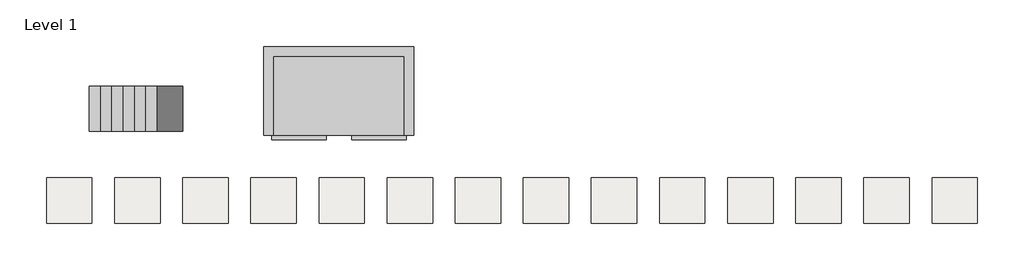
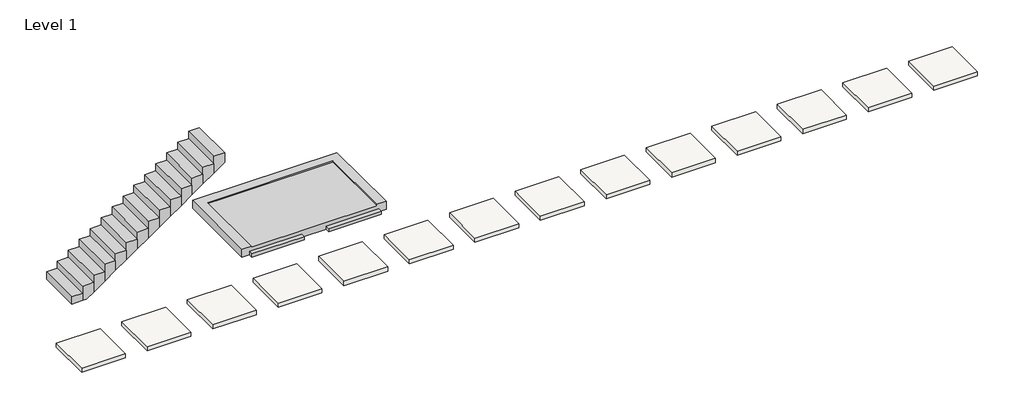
# One storey: 14 slabs, 1 proxy, 1 stair flight.
"""IFC4 building model written with IfcOpenShell, lengths in millimetres."""

from ifc_helpers import new_model, si_unit, frame, origin, place, context, project, spatial, polyline, outline, extrude, faceted_brep, transform, mapped, element, save
from components import proxy_300_24_isr_concrete_platform_double_platform_9cdc8692

model = new_model("IFC4")

# Units and contexts
model_context = context("Model", 3, world=origin())
ifc_project = project(units=[si_unit("LENGTHUNIT", "METRE", prefix="MILLI")], contexts=[model_context])

# Site, building, storey
site = spatial("IfcSite", under=ifc_project)
building = spatial("IfcBuilding", under=site)
storey = spatial("IfcBuildingStorey", under=building, Name="Level 1", Elevation=0.0)

# Proxy
placement = place(None, origin())
proxy_300_24_isr_concrete_platform_double_platform_shape = proxy_300_24_isr_concrete_platform_double_platform_9cdc8692(model_context)
element("IfcBuildingElementProxy", 1, Name="300_24_ISR_concrete_platform : double platform", ObjectType="300_24_ISR_concrete_platform : double platform", at=placement, inside=storey, context=model_context, shape_type="MappedRepresentation", body=[
    mapped(proxy_300_24_isr_concrete_platform_double_platform_shape, transform((-652.5441241, 2827.5413771, 0.0), x_axis=(1.0, 0.0, 0.0), y_axis=(0.0, 1.0, 0.0), z_axis=(0.0, 0.0, 1.0))),
])

# Slabs
element("IfcSlab", 2, ObjectType="Generic 100mm", at=placement, inside=storey, context=model_context, shape_type="SweptSolid", body=[
    extrude(outline(polyline([(-3088.5953778, 89.4387512), (-3088.5953778, -910.5612488), (-4088.5953778, -910.5612488), (-4088.5953778, 89.4387512), (-3088.5953778, 89.4387512)])), frame((0.0, 0.0, -100.0), z_axis=(0.0, 0.0, 1.0), x_axis=(1.0, 0.0, 0.0)), (0.0, 0.0, 1.0), 100.0),
])
element("IfcSlab", 3, ObjectType="Generic 100mm", at=placement, inside=storey, context=model_context, shape_type="SweptSolid", body=[
    extrude(outline(polyline([(-1588.5953778, 89.4387512), (-1588.5953778, -910.5612488), (-2588.5953778, -910.5612488), (-2588.5953778, 89.4387512), (-1588.5953778, 89.4387512)])), frame((0.0, 0.0, -100.0), z_axis=(0.0, 0.0, 1.0), x_axis=(1.0, 0.0, 0.0)), (0.0, 0.0, 1.0), 100.0),
])
element("IfcSlab", 4, ObjectType="Generic 100mm", at=placement, inside=storey, context=model_context, shape_type="SweptSolid", body=[
    extrude(outline(polyline([(-88.5953778, 89.4387512), (-88.5953778, -910.5612488), (-1088.5953778, -910.5612488), (-1088.5953778, 89.4387512), (-88.5953778, 89.4387512)])), frame((0.0, 0.0, -100.0), z_axis=(0.0, 0.0, 1.0), x_axis=(1.0, 0.0, 0.0)), (0.0, 0.0, 1.0), 100.0),
])
element("IfcSlab", 5, ObjectType="Generic 100mm", at=placement, inside=storey, context=model_context, shape_type="SweptSolid", body=[
    extrude(outline(polyline([(1411.4046222, 89.4387512), (1411.4046222, -910.5612488), (411.4046222, -910.5612488), (411.4046222, 89.4387512), (1411.4046222, 89.4387512)])), frame((0.0, 0.0, -100.0), z_axis=(0.0, 0.0, 1.0), x_axis=(1.0, 0.0, 0.0)), (0.0, 0.0, 1.0), 100.0),
])
element("IfcSlab", 6, ObjectType="Generic 100mm", at=placement, inside=storey, context=model_context, shape_type="SweptSolid", body=[
    extrude(outline(polyline([(2911.4046222, 89.4387512), (2911.4046222, -910.5612488), (1911.4046222, -910.5612488), (1911.4046222, 89.4387512), (2911.4046222, 89.4387512)])), frame((0.0, 0.0, -100.0), z_axis=(0.0, 0.0, 1.0), x_axis=(1.0, 0.0, 0.0)), (0.0, 0.0, 1.0), 100.0),
])
element("IfcSlab", 7, ObjectType="Generic 100mm", at=placement, inside=storey, context=model_context, shape_type="SweptSolid", body=[
    extrude(outline(polyline([(4411.4046222, 89.4387512), (4411.4046222, -910.5612488), (3411.4046222, -910.5612488), (3411.4046222, 89.4387512), (4411.4046222, 89.4387512)])), frame((0.0, 0.0, -100.0), z_axis=(0.0, 0.0, 1.0), x_axis=(1.0, 0.0, 0.0)), (0.0, 0.0, 1.0), 100.0),
])
element("IfcSlab", 8, ObjectType="Generic 100mm", at=placement, inside=storey, context=model_context, shape_type="SweptSolid", body=[
    extrude(outline(polyline([(5911.4046222, 89.4387512), (5911.4046222, -910.5612488), (4911.4046222, -910.5612488), (4911.4046222, 89.4387512), (5911.4046222, 89.4387512)])), frame((0.0, 0.0, -100.0), z_axis=(0.0, 0.0, 1.0), x_axis=(1.0, 0.0, 0.0)), (0.0, 0.0, 1.0), 100.0),
])
element("IfcSlab", 9, ObjectType="Generic 100mm", at=placement, inside=storey, context=model_context, shape_type="SweptSolid", body=[
    extrude(outline(polyline([(7411.4046222, 89.4387512), (7411.4046222, -910.5612488), (6411.4046222, -910.5612488), (6411.4046222, 89.4387512), (7411.4046222, 89.4387512)])), frame((0.0, 0.0, -100.0), z_axis=(0.0, 0.0, 1.0), x_axis=(1.0, 0.0, 0.0)), (0.0, 0.0, 1.0), 100.0),
])
element("IfcSlab", 10, ObjectType="Generic 100mm", at=placement, inside=storey, context=model_context, shape_type="SweptSolid", body=[
    extrude(outline(polyline([(-4588.5953778, 89.4387512), (-4588.5953778, -910.5612488), (-5588.5953778, -910.5612488), (-5588.5953778, 89.4387512), (-4588.5953778, 89.4387512)])), frame((0.0, 0.0, -100.0), z_axis=(0.0, 0.0, 1.0), x_axis=(1.0, 0.0, 0.0)), (0.0, 0.0, 1.0), 100.0),
])
element("IfcSlab", 11, ObjectType="Generic 100mm", at=placement, inside=storey, context=model_context, shape_type="SweptSolid", body=[
    extrude(outline(polyline([(8911.4046222, 89.4387512), (8911.4046222, -910.5612488), (7911.4046222, -910.5612488), (7911.4046222, 89.4387512), (8911.4046222, 89.4387512)])), frame((0.0, 0.0, -100.0), z_axis=(0.0, 0.0, 1.0), x_axis=(1.0, 0.0, 0.0)), (0.0, 0.0, 1.0), 100.0),
])
element("IfcSlab", 12, ObjectType="Generic 100mm", at=placement, inside=storey, context=model_context, shape_type="SweptSolid", body=[
    extrude(outline(polyline([(10411.4046222, 89.4387512), (10411.4046222, -910.5612488), (9411.4046222, -910.5612488), (9411.4046222, 89.4387512), (10411.4046222, 89.4387512)])), frame((0.0, 0.0, -100.0), z_axis=(0.0, 0.0, 1.0), x_axis=(1.0, 0.0, 0.0)), (0.0, 0.0, 1.0), 100.0),
])
element("IfcSlab", 13, ObjectType="Generic 100mm", at=placement, inside=storey, context=model_context, shape_type="SweptSolid", body=[
    extrude(outline(polyline([(11911.4046222, 89.4387512), (11911.4046222, -910.5612488), (10911.4046222, -910.5612488), (10911.4046222, 89.4387512), (11911.4046222, 89.4387512)])), frame((0.0, 0.0, -100.0), z_axis=(0.0, 0.0, 1.0), x_axis=(1.0, 0.0, 0.0)), (0.0, 0.0, 1.0), 100.0),
])
element("IfcSlab", 14, ObjectType="Generic 100mm", at=placement, inside=storey, context=model_context, shape_type="SweptSolid", body=[
    extrude(outline(polyline([(13411.4046222, 89.4387512), (13411.4046222, -910.5612488), (12411.4046222, -910.5612488), (12411.4046222, 89.4387512), (13411.4046222, 89.4387512)])), frame((0.0, 0.0, -100.0), z_axis=(0.0, 0.0, 1.0), x_axis=(1.0, 0.0, 0.0)), (0.0, 0.0, 1.0), 100.0),
])
element("IfcSlab", 15, ObjectType="Generic 100mm", at=placement, inside=storey, context=model_context, shape_type="SweptSolid", body=[
    extrude(outline(polyline([(14911.4046222, 89.4387512), (14911.4046222, -910.5612488), (13911.4046222, -910.5612488), (13911.4046222, 89.4387512), (14911.4046222, 89.4387512)])), frame((0.0, 0.0, -100.0), z_axis=(0.0, 0.0, 1.0), x_axis=(1.0, 0.0, 0.0)), (0.0, 0.0, 1.0), 100.0),
])

# Stair flight
element("IfcStairFlight", 16, ObjectType="190mm Depth", at=placement, inside=storey, context=model_context, shape_type="Brep", body=[
    faceted_brep([(-4398.5953778, 2107.5413771, 173.9130435), (-4648.5953778, 2107.5413771, 173.9130435), (-4648.5953778, 1107.5413771, 173.9130435), (-4398.5953778, 1107.5413771, 173.9130435), (-4398.5953778, 2107.5413771, 0.0), (-4648.5953778, 2107.5413771, 0.0), (-4648.5953778, 1107.5413771, 0.0), (-4398.5953778, 1107.5413771, 0.0), (-4148.5953778, 2107.5413771, 347.826087), (-4398.5953778, 2107.5413771, 347.826087), (-4398.5953778, 1107.5413771, 347.826087), (-4148.5953778, 1107.5413771, 347.826087), (-4148.5953778, 2107.5413771, 116.3742706), (-4315.8833918, 2107.5413771, 0.0), (-4315.8833918, 1107.5413771, 0.0), (-4148.5953778, 1107.5413771, 116.3742706), (-3898.5953778, 2107.5413771, 521.7391304), (-4148.5953778, 2107.5413771, 521.7391304), (-4148.5953778, 1107.5413771, 521.7391304), (-3898.5953778, 1107.5413771, 521.7391304), (-3898.5953778, 2107.5413771, 290.2873141), (-3898.5953778, 1107.5413771, 290.2873141), (-3648.5953778, 2107.5413771, 695.6521739), (-3898.5953778, 2107.5413771, 695.6521739), (-3898.5953778, 1107.5413771, 695.6521739), (-3648.5953778, 1107.5413771, 695.6521739), (-3648.5953778, 2107.5413771, 464.2003576), (-3648.5953778, 1107.5413771, 464.2003576), (-3398.5953778, 2107.5413771, 869.5652174), (-3648.5953778, 2107.5413771, 869.5652174), (-3648.5953778, 1107.5413771, 869.5652174), (-3398.5953778, 1107.5413771, 869.5652174), (-3398.5953778, 2107.5413771, 638.113401), (-3398.5953778, 1107.5413771, 638.113401), (-3148.5953778, 2107.5413771, 1043.4782609), (-3398.5953778, 2107.5413771, 1043.4782609), (-3398.5953778, 1107.5413771, 1043.4782609), (-3148.5953778, 1107.5413771, 1043.4782609), (-3148.5953778, 2107.5413771, 812.0264445), (-3148.5953778, 1107.5413771, 812.0264445), (-2898.5953778, 2107.5413771, 1217.3913043), (-3148.5953778, 2107.5413771, 1217.3913043), (-3148.5953778, 1107.5413771, 1217.3913043), (-2898.5953778, 1107.5413771, 1217.3913043), (-2898.5953778, 2107.5413771, 985.939488), (-2898.5953778, 1107.5413771, 985.939488), (-2648.5953778, 2107.5413771, 1391.3043478), (-2898.5953778, 2107.5413771, 1391.3043478), (-2898.5953778, 1107.5413771, 1391.3043478), (-2648.5953778, 1107.5413771, 1391.3043478), (-2648.5953778, 2107.5413771, 1159.8525315), (-2648.5953778, 1107.5413771, 1159.8525315), (-2398.5953778, 2107.5413771, 1565.2173913), (-2648.5953778, 2107.5413771, 1565.2173913), (-2648.5953778, 1107.5413771, 1565.2173913), (-2398.5953778, 1107.5413771, 1565.2173913), (-2398.5953778, 2107.5413771, 1333.765575), (-2398.5953778, 1107.5413771, 1333.765575), (-2148.5953778, 2107.5413771, 1739.1304348), (-2398.5953778, 2107.5413771, 1739.1304348), (-2398.5953778, 1107.5413771, 1739.1304348), (-2148.5953778, 1107.5413771, 1739.1304348), (-2148.5953778, 2107.5413771, 1507.6786184), (-2148.5953778, 1107.5413771, 1507.6786184), (-1898.5953778, 2107.5413771, 1913.0434783), (-2148.5953778, 2107.5413771, 1913.0434783), (-2148.5953778, 1107.5413771, 1913.0434783), (-1898.5953778, 1107.5413771, 1913.0434783), (-1898.5953778, 2107.5413771, 1681.5916619), (-1898.5953778, 1107.5413771, 1681.5916619), (-1648.5953778, 2107.5413771, 2086.9565217), (-1898.5953778, 2107.5413771, 2086.9565217), (-1898.5953778, 1107.5413771, 2086.9565217), (-1648.5953778, 1107.5413771, 2086.9565217), (-1648.5953778, 2107.5413771, 1855.5047054), (-1648.5953778, 1107.5413771, 1855.5047054), (-1398.5953778, 2107.5413771, 2260.8695652), (-1648.5953778, 2107.5413771, 2260.8695652), (-1648.5953778, 1107.5413771, 2260.8695652), (-1398.5953778, 1107.5413771, 2260.8695652), (-1398.5953778, 2107.5413771, 2029.4177489), (-1398.5953778, 1107.5413771, 2029.4177489), (-1148.5953778, 2107.5413771, 2203.3307924), (-1148.5953778, 1107.5413771, 2203.3307924), (-1148.5953778, 2107.5413771, 2434.7826087), (-1398.5953778, 2107.5413771, 2434.7826087), (-1398.5953778, 1107.5413771, 2434.7826087), (-1148.5953778, 1107.5413771, 2434.7826087)], [[[0, 1, 2, 3]], [[1, 0, 4, 5]], [[2, 1, 5, 6]], [[3, 2, 6, 7]], [[8, 9, 10, 11]], [[4, 0, 9, 8, 12, 13]], [[0, 3, 10, 9]], [[3, 7, 14, 15, 11, 10]], [[16, 17, 18, 19]], [[17, 16, 20, 12, 8]], [[8, 11, 18, 17]], [[19, 18, 11, 15, 21]], [[22, 23, 24, 25]], [[23, 22, 26, 20, 16]], [[16, 19, 24, 23]], [[25, 24, 19, 21, 27]], [[28, 29, 30, 31]], [[29, 28, 32, 26, 22]], [[22, 25, 30, 29]], [[31, 30, 25, 27, 33]], [[34, 35, 36, 37]], [[35, 34, 38, 32, 28]], [[28, 31, 36, 35]], [[37, 36, 31, 33, 39]], [[40, 41, 42, 43]], [[41, 40, 44, 38, 34]], [[34, 37, 42, 41]], [[43, 42, 37, 39, 45]], [[46, 47, 48, 49]], [[47, 46, 50, 44, 40]], [[40, 43, 48, 47]], [[49, 48, 43, 45, 51]], [[52, 53, 54, 55]], [[53, 52, 56, 50, 46]], [[46, 49, 54, 53]], [[55, 54, 49, 51, 57]], [[58, 59, 60, 61]], [[59, 58, 62, 56, 52]], [[52, 55, 60, 59]], [[61, 60, 55, 57, 63]], [[64, 65, 66, 67]], [[65, 64, 68, 62, 58]], [[58, 61, 66, 65]], [[67, 66, 61, 63, 69]], [[70, 71, 72, 73]], [[71, 70, 74, 68, 64]], [[64, 67, 72, 71]], [[73, 72, 67, 69, 75]], [[76, 77, 78, 79]], [[77, 76, 80, 74, 70]], [[70, 73, 78, 77]], [[79, 78, 73, 75, 81]], [[5, 4, 13, 14, 7, 6]], [[14, 13, 12, 20, 26, 32, 38, 44, 50, 56, 62, 68, 74, 80, 82, 83, 81, 75, 69, 63, 57, 51, 45, 39, 33, 27, 21, 15]], [[84, 85, 86, 87]], [[85, 84, 82, 80, 76]], [[76, 79, 86, 85]], [[87, 86, 79, 81, 83]], [[84, 87, 83, 82]]]),
])

save(model, "model.ifc")
